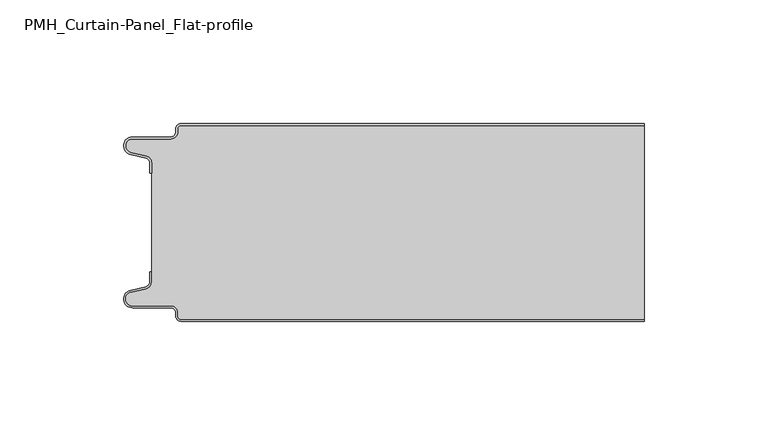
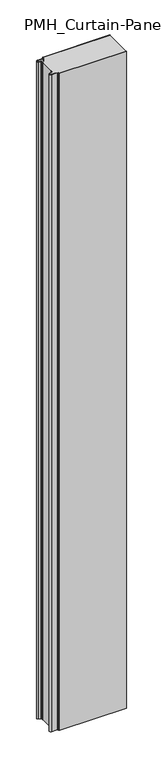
"""IFC4 building model written with IfcOpenShell, lengths in millimetres: plate geometry, PMH_Curtain-Panel_Flat-profile : ACH_PMH_Stone-wool-Panel_80M."""

from ifc_helpers import new_model, si_unit, point, frame_2d, origin, origin_with_axes, place, context, project, spatial, polyline, circle_curve, trimmed, segment, composite_curve, outline, extrude, source, transform, mapped, element, save


def pmh_curtain_panel_flat_profile_94c8216d(model_context):
    return source(origin(), model_context, "Body", "SweptSolid", [
        extrude(outline(composite_curve([segment(trimmed(circle_curve(frame_2d((-87.4119739, -2.0)), 1.2), [point((-87.4119739, -0.8))], [point((-88.6119739, -2.0))], True, "CARTESIAN"), True, "CONTINUOUS"), segment(polyline([(-88.6119739, -2.0), (-88.6119739, -3.4)]), True, "CONTINUOUS"), segment(trimmed(circle_curve(frame_2d((-91.4119739, -3.4)), 2.8), [point((-88.6119739, -3.4))], [point((-91.4119739, -6.2))], False, "CARTESIAN"), True, "CONTINUOUS"), segment(polyline([(-91.4119739, -6.2), (-106.9119739, -6.2)]), True, "CONTINUOUS"), segment(trimmed(circle_curve(frame_2d((-106.9119739, -9.0)), 2.8), [point((-106.9119739, -6.2))], [point((-107.541837, -11.7282362))], True, "CARTESIAN"), True, "CONTINUOUS"), segment(polyline([(-107.541837, -11.7282362), (-101.3821109, -13.150321)]), True, "CONTINUOUS"), segment(trimmed(circle_curve(frame_2d((-102.0119739, -15.878557)), 2.8), [point((-101.3821109, -13.150321))], [point((-99.2119739, -15.878557))], False, "CARTESIAN"), True, "CONTINUOUS"), segment(polyline([(-99.2119739, -15.878557), (-99.2119739, -20.0), (-100.0119739, -20.0), (-100.0119739, -15.878557)]), True, "CONTINUOUS"), segment(trimmed(circle_curve(frame_2d((-102.0119739, -15.878557)), 2.0), [point((-100.0119739, -15.878557))], [point((-101.5620718, -13.9298169))], True, "CARTESIAN"), True, "CONTINUOUS"), segment(polyline([(-101.5620718, -13.9298169), (-107.7217978, -12.507732)]), True, "CONTINUOUS"), segment(trimmed(circle_curve(frame_2d((-106.9119739, -9.0)), 3.6), [point((-107.7217978, -12.507732))], [point((-106.9119739, -5.4))], False, "CARTESIAN"), True, "CONTINUOUS"), segment(polyline([(-106.9119739, -5.4), (-91.4119739, -5.4)]), True, "CONTINUOUS"), segment(trimmed(circle_curve(frame_2d((-91.4119739, -3.4)), 2.0), [point((-91.4119739, -5.4))], [point((-89.4119739, -3.4))], True, "CARTESIAN"), True, "CONTINUOUS"), segment(polyline([(-89.4119739, -3.4), (-89.4119739, -2.0)]), True, "CONTINUOUS"), segment(trimmed(circle_curve(frame_2d((-87.4119739, -2.0)), 2.0), [point((-89.4119739, -2.0))], [point((-87.4119739, 0.0))], False, "CARTESIAN"), True, "CONTINUOUS"), segment(polyline([(-87.4119739, 0.0), (100.0119739, 0.0), (100.0119739, -0.8), (-87.4119739, -0.8)]), True, "CONTINUOUS")], self_intersect=False)), origin_with_axes(), (0.0, 0.0, 1.0), 1945.7507136),
        extrude(outline(composite_curve([segment(polyline([(-99.2119739, -64.1214426), (-99.2119739, -15.8785573)]), True, "CONTINUOUS"), segment(trimmed(circle_curve(frame_2d((-102.0119739, -15.8785573)), 2.8), [point((-99.2119739, -15.8785573))], [point((-101.3821109, -13.1503212))], True, "CARTESIAN"), True, "CONTINUOUS"), segment(polyline([(-101.3821109, -13.1503212), (-107.541837, -11.7282362)]), True, "CONTINUOUS"), segment(trimmed(circle_curve(frame_2d((-106.911974, -9.0)), 2.8), [point((-107.541837, -11.7282362))], [point((-106.911974, -6.2))], False, "CARTESIAN"), True, "CONTINUOUS"), segment(polyline([(-106.911974, -6.2), (-91.411974, -6.2)]), True, "CONTINUOUS"), segment(trimmed(circle_curve(frame_2d((-91.411974, -3.4)), 2.8), [point((-91.411974, -6.2))], [point((-88.611974, -3.4))], True, "CARTESIAN"), True, "CONTINUOUS"), segment(polyline([(-88.611974, -3.4), (-88.611974, -2.0)]), True, "CONTINUOUS"), segment(trimmed(circle_curve(frame_2d((-87.411974, -2.0)), 1.2), [point((-88.611974, -2.0))], [point((-87.411974, -0.8))], False, "CARTESIAN"), True, "CONTINUOUS"), segment(polyline([(-87.411974, -0.8), (100.0119739, -0.8), (100.0119739, -79.2), (-87.411974, -79.2)]), True, "CONTINUOUS"), segment(trimmed(circle_curve(frame_2d((-87.411974, -78.0)), 1.2), [point((-87.411974, -79.2))], [point((-88.611974, -78.0))], False, "CARTESIAN"), True, "CONTINUOUS"), segment(polyline([(-88.611974, -78.0), (-88.611974, -76.6)]), True, "CONTINUOUS"), segment(trimmed(circle_curve(frame_2d((-91.411974, -76.6)), 2.8), [point((-88.611974, -76.6))], [point((-91.411974, -73.8))], True, "CARTESIAN"), True, "CONTINUOUS"), segment(polyline([(-91.411974, -73.8), (-106.911974, -73.8)]), True, "CONTINUOUS"), segment(trimmed(circle_curve(frame_2d((-106.911974, -71.0)), 2.8), [point((-106.911974, -73.8))], [point((-107.541837, -68.2717638))], False, "CARTESIAN"), True, "CONTINUOUS"), segment(polyline([(-107.541837, -68.2717638), (-101.3821109, -66.8496788)]), True, "CONTINUOUS"), segment(trimmed(circle_curve(frame_2d((-102.0119739, -64.1214426)), 2.8), [point((-101.3821109, -66.8496788))], [point((-99.2119739, -64.1214426))], True, "CARTESIAN"), True, "CONTINUOUS")], self_intersect=False)), origin_with_axes(), (0.0, 0.0, 1.0), 1945.7507136),
        extrude(outline(composite_curve([segment(trimmed(circle_curve(frame_2d((-87.4119739, -78.0)), 2.0), [point((-87.4119739, -80.0))], [point((-89.4119739, -78.0))], False, "CARTESIAN"), True, "CONTINUOUS"), segment(polyline([(-89.4119739, -78.0), (-89.4119739, -76.6)]), True, "CONTINUOUS"), segment(trimmed(circle_curve(frame_2d((-91.4119739, -76.6)), 2.0), [point((-89.4119739, -76.6))], [point((-91.4119739, -74.6))], True, "CARTESIAN"), True, "CONTINUOUS"), segment(polyline([(-91.4119739, -74.6), (-106.9119739, -74.6)]), True, "CONTINUOUS"), segment(trimmed(circle_curve(frame_2d((-106.9119739, -71.0)), 3.6), [point((-106.9119739, -74.6))], [point((-107.7217979, -67.4922678))], False, "CARTESIAN"), True, "CONTINUOUS"), segment(polyline([(-107.7217979, -67.4922678), (-101.5620718, -66.070183)]), True, "CONTINUOUS"), segment(trimmed(circle_curve(frame_2d((-102.0119739, -64.121443)), 2.0), [point((-101.5620718, -66.070183))], [point((-100.0119739, -64.121443))], True, "CARTESIAN"), True, "CONTINUOUS"), segment(polyline([(-100.0119739, -64.121443), (-100.0119739, -60.0), (-99.2119739, -60.0), (-99.2119739, -64.121443)]), True, "CONTINUOUS"), segment(trimmed(circle_curve(frame_2d((-102.0119739, -64.121443)), 2.8), [point((-99.2119739, -64.121443))], [point((-101.3821109, -66.8496792))], False, "CARTESIAN"), True, "CONTINUOUS"), segment(polyline([(-101.3821109, -66.8496792), (-107.5418369, -68.271764)]), True, "CONTINUOUS"), segment(trimmed(circle_curve(frame_2d((-106.9119739, -71.0)), 2.8), [point((-107.5418369, -68.271764))], [point((-106.9119739, -73.8))], True, "CARTESIAN"), True, "CONTINUOUS"), segment(polyline([(-106.9119739, -73.8), (-91.4119739, -73.8)]), True, "CONTINUOUS"), segment(trimmed(circle_curve(frame_2d((-91.4119739, -76.6)), 2.8), [point((-91.4119739, -73.8))], [point((-88.6119739, -76.6))], False, "CARTESIAN"), True, "CONTINUOUS"), segment(polyline([(-88.6119739, -76.6), (-88.6119739, -78.0)]), True, "CONTINUOUS"), segment(trimmed(circle_curve(frame_2d((-87.4119739, -78.0)), 1.2), [point((-88.6119739, -78.0))], [point((-87.4119739, -79.2))], True, "CARTESIAN"), True, "CONTINUOUS"), segment(polyline([(-87.4119739, -79.2), (100.0119739, -79.2), (100.0119739, -80.0), (-87.4119739, -80.0)]), True, "CONTINUOUS")], self_intersect=False)), origin_with_axes(), (0.0, 0.0, 1.0), 1945.7507136),
    ])


if __name__ == "__main__":
    model = new_model("IFC4")
    model_context = context("Model", 3, world=origin())
    ifc_project = project(units=[si_unit("LENGTHUNIT", "METRE", prefix="MILLI")], contexts=[model_context])
    site = spatial("IfcSite", under=ifc_project)
    building = spatial("IfcBuilding", under=site)
    placement = place(None, origin())
    pmh_curtain_panel_flat_profile_shape = pmh_curtain_panel_flat_profile_94c8216d(model_context)
    element("IfcPlate", 1, ObjectType="PMH_Curtain-Panel_Flat-profile : ACH_PMH_Stone-wool-Panel_80M", at=placement, inside=building, context=model_context, shape_type="MappedRepresentation", body=[
        mapped(pmh_curtain_panel_flat_profile_shape, transform((0.0, 0.0, 0.0), x_axis=(1.0, 0.0, 0.0), y_axis=(0.0, 1.0, 0.0), z_axis=(0.0, 0.0, 1.0))),
    ])
    save(model, "model.ifc")
